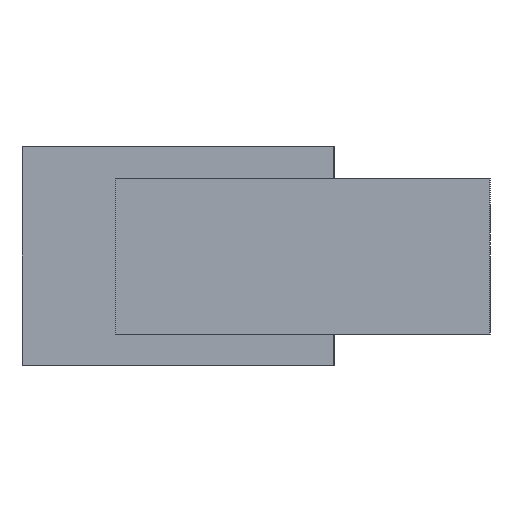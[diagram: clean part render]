
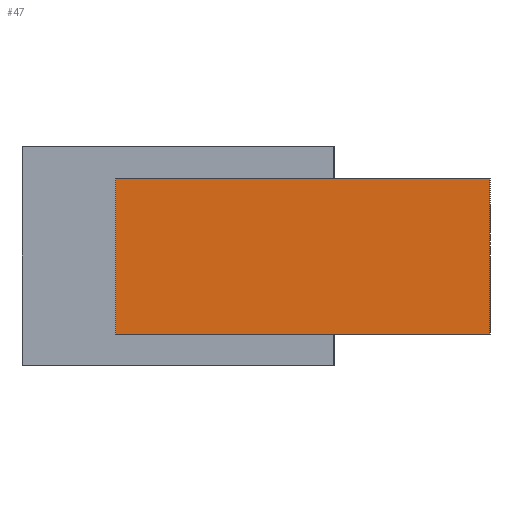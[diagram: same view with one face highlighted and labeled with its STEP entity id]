
A CAD part, left-side view. The second image highlights one B-rep face of the part: STEP entity #47.
In plain terms, the highlighted planar face has unit normal (-1, 0, 0).
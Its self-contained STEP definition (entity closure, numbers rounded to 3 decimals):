
#47 = ADVANCED_FACE('',(#48),#62,.F.);
#48 = FACE_BOUND('',#49,.F.);
#49 = EDGE_LOOP('',(#50,#85,#113,#141));
#50 = ORIENTED_EDGE('',*,*,#51,.F.);
#51 = EDGE_CURVE('',#52,#54,#56,.T.);
#52 = VERTEX_POINT('',#53);
#53 = CARTESIAN_POINT('',(-33.,-10.,125.));
#54 = VERTEX_POINT('',#55);
#55 = CARTESIAN_POINT('',(-33.,14.,125.));
#56 = SURFACE_CURVE('',#57,(#61,#73),.PCURVE_S1.);
#57 = LINE('',#58,#59);
#58 = CARTESIAN_POINT('',(-33.,-10.,125.));
#59 = VECTOR('',#60,1.);
#60 = DIRECTION('',(0.,1.,0.));
#61 = PCURVE('',#62,#67);
#62 = PLANE('',#63);
#63 = AXIS2_PLACEMENT_3D('',#64,#65,#66);
#64 = CARTESIAN_POINT('',(-33.,-10.,115.));
#65 = DIRECTION('',(1.,0.,0.));
#66 = DIRECTION('',(0.,0.,1.));
#67 = DEFINITIONAL_REPRESENTATION('',(#68),#72);
#68 = LINE('',#69,#70);
#69 = CARTESIAN_POINT('',(10.,0.));
#70 = VECTOR('',#71,1.);
#71 = DIRECTION('',(0.,-1.));
#72 = ( GEOMETRIC_REPRESENTATION_CONTEXT(2)
PARAMETRIC_REPRESENTATION_CONTEXT() REPRESENTATION_CONTEXT('2D SPACE',''
  ) );
#73 = PCURVE('',#74,#79);
#74 = PLANE('',#75);
#75 = AXIS2_PLACEMENT_3D('',#76,#77,#78);
#76 = CARTESIAN_POINT('',(-33.,-10.,125.));
#77 = DIRECTION('',(0.,0.,1.));
#78 = DIRECTION('',(1.,0.,0.));
#79 = DEFINITIONAL_REPRESENTATION('',(#80),#84);
#80 = LINE('',#81,#82);
#81 = CARTESIAN_POINT('',(0.,0.));
#82 = VECTOR('',#83,1.);
#83 = DIRECTION('',(0.,1.));
#84 = ( GEOMETRIC_REPRESENTATION_CONTEXT(2)
PARAMETRIC_REPRESENTATION_CONTEXT() REPRESENTATION_CONTEXT('2D SPACE',''
  ) );
#85 = ORIENTED_EDGE('',*,*,#86,.F.);
#86 = EDGE_CURVE('',#87,#52,#89,.T.);
#87 = VERTEX_POINT('',#88);
#88 = CARTESIAN_POINT('',(-33.,-10.,115.));
#89 = SURFACE_CURVE('',#90,(#94,#101),.PCURVE_S1.);
#90 = LINE('',#91,#92);
#91 = CARTESIAN_POINT('',(-33.,-10.,115.));
#92 = VECTOR('',#93,1.);
#93 = DIRECTION('',(0.,0.,1.));
#94 = PCURVE('',#62,#95);
#95 = DEFINITIONAL_REPRESENTATION('',(#96),#100);
#96 = LINE('',#97,#98);
#97 = CARTESIAN_POINT('',(0.,0.));
#98 = VECTOR('',#99,1.);
#99 = DIRECTION('',(1.,0.));
#100 = ( GEOMETRIC_REPRESENTATION_CONTEXT(2)
PARAMETRIC_REPRESENTATION_CONTEXT() REPRESENTATION_CONTEXT('2D SPACE',''
  ) );
#101 = PCURVE('',#102,#107);
#102 = PLANE('',#103);
#103 = AXIS2_PLACEMENT_3D('',#104,#105,#106);
#104 = CARTESIAN_POINT('',(-33.,-10.,115.));
#105 = DIRECTION('',(0.,1.,0.));
#106 = DIRECTION('',(0.,0.,1.));
#107 = DEFINITIONAL_REPRESENTATION('',(#108),#112);
#108 = LINE('',#109,#110);
#109 = CARTESIAN_POINT('',(0.,0.));
#110 = VECTOR('',#111,1.);
#111 = DIRECTION('',(1.,0.));
#112 = ( GEOMETRIC_REPRESENTATION_CONTEXT(2)
PARAMETRIC_REPRESENTATION_CONTEXT() REPRESENTATION_CONTEXT('2D SPACE',''
  ) );
#113 = ORIENTED_EDGE('',*,*,#114,.F.);
#114 = EDGE_CURVE('',#115,#87,#117,.T.);
#115 = VERTEX_POINT('',#116);
#116 = CARTESIAN_POINT('',(-33.,14.,115.));
#117 = SURFACE_CURVE('',#118,(#122,#129),.PCURVE_S1.);
#118 = LINE('',#119,#120);
#119 = CARTESIAN_POINT('',(-33.,14.,115.));
#120 = VECTOR('',#121,1.);
#121 = DIRECTION('',(0.,-1.,0.));
#122 = PCURVE('',#62,#123);
#123 = DEFINITIONAL_REPRESENTATION('',(#124),#128);
#124 = LINE('',#125,#126);
#125 = CARTESIAN_POINT('',(0.,-24.));
#126 = VECTOR('',#127,1.);
#127 = DIRECTION('',(0.,1.));
#128 = ( GEOMETRIC_REPRESENTATION_CONTEXT(2)
PARAMETRIC_REPRESENTATION_CONTEXT() REPRESENTATION_CONTEXT('2D SPACE',''
  ) );
#129 = PCURVE('',#130,#135);
#130 = PLANE('',#131);
#131 = AXIS2_PLACEMENT_3D('',#132,#133,#134);
#132 = CARTESIAN_POINT('',(-33.,-10.,115.));
#133 = DIRECTION('',(0.,0.,1.));
#134 = DIRECTION('',(1.,0.,0.));
#135 = DEFINITIONAL_REPRESENTATION('',(#136),#140);
#136 = LINE('',#137,#138);
#137 = CARTESIAN_POINT('',(0.,24.));
#138 = VECTOR('',#139,1.);
#139 = DIRECTION('',(0.,-1.));
#140 = ( GEOMETRIC_REPRESENTATION_CONTEXT(2)
PARAMETRIC_REPRESENTATION_CONTEXT() REPRESENTATION_CONTEXT('2D SPACE',''
  ) );
#141 = ORIENTED_EDGE('',*,*,#142,.T.);
#142 = EDGE_CURVE('',#115,#54,#143,.T.);
#143 = SURFACE_CURVE('',#144,(#148,#155),.PCURVE_S1.);
#144 = LINE('',#145,#146);
#145 = CARTESIAN_POINT('',(-33.,14.,115.));
#146 = VECTOR('',#147,1.);
#147 = DIRECTION('',(0.,0.,1.));
#148 = PCURVE('',#62,#149);
#149 = DEFINITIONAL_REPRESENTATION('',(#150),#154);
#150 = LINE('',#151,#152);
#151 = CARTESIAN_POINT('',(0.,-24.));
#152 = VECTOR('',#153,1.);
#153 = DIRECTION('',(1.,0.));
#154 = ( GEOMETRIC_REPRESENTATION_CONTEXT(2)
PARAMETRIC_REPRESENTATION_CONTEXT() REPRESENTATION_CONTEXT('2D SPACE',''
  ) );
#155 = PCURVE('',#156,#161);
#156 = PLANE('',#157);
#157 = AXIS2_PLACEMENT_3D('',#158,#159,#160);
#158 = CARTESIAN_POINT('',(-33.,14.,115.));
#159 = DIRECTION('',(0.,1.,0.));
#160 = DIRECTION('',(0.,0.,1.));
#161 = DEFINITIONAL_REPRESENTATION('',(#162),#166);
#162 = LINE('',#163,#164);
#163 = CARTESIAN_POINT('',(0.,0.));
#164 = VECTOR('',#165,1.);
#165 = DIRECTION('',(1.,0.));
#166 = ( GEOMETRIC_REPRESENTATION_CONTEXT(2)
PARAMETRIC_REPRESENTATION_CONTEXT() REPRESENTATION_CONTEXT('2D SPACE',''
  ) );
